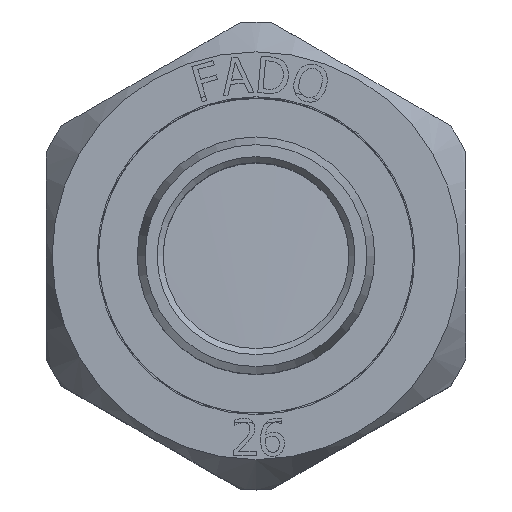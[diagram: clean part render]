
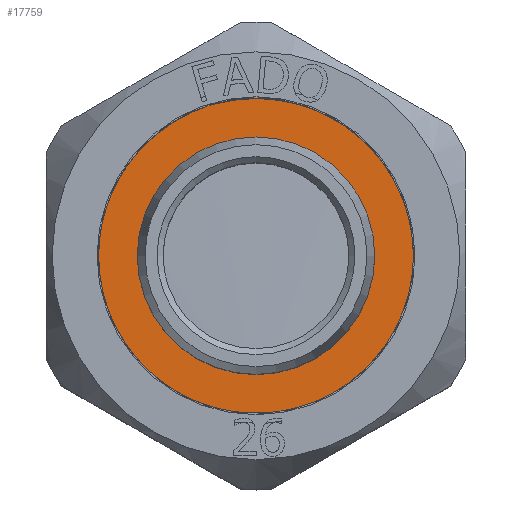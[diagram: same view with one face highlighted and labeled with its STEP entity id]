
A CAD part, top view. The second image highlights one B-rep face of the part: STEP entity #17759.
In plain terms, the highlighted planar face has unit normal (0, 0, 1) as drawn and (0, 0, -1) by its records, which use the part's own axes.
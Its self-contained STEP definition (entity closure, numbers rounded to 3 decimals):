
#1891=FACE_BOUND('',#4345,.T.);
#2156=PLANE('',#18819);
#3272=FACE_OUTER_BOUND('',#4344,.T.);
#4344=EDGE_LOOP('',(#16627,#16628));
#4345=EDGE_LOOP('',(#16629,#16630));
#6844=CIRCLE('',#18817,9.9);
#6845=CIRCLE('',#18818,9.9);
#6846=CIRCLE('',#18820,13.25);
#6847=CIRCLE('',#18821,13.25);
#8656=VERTEX_POINT('',#56282);
#8657=VERTEX_POINT('',#56283);
#8658=VERTEX_POINT('',#56288);
#8659=VERTEX_POINT('',#56289);
#11324=EDGE_CURVE('',#8656,#8657,#6844,.T.);
#11325=EDGE_CURVE('',#8657,#8656,#6845,.T.);
#11327=EDGE_CURVE('',#8658,#8659,#6846,.T.);
#11328=EDGE_CURVE('',#8659,#8658,#6847,.T.);
#16627=ORIENTED_EDGE('',*,*,#11327,.F.);
#16628=ORIENTED_EDGE('',*,*,#11328,.F.);
#16629=ORIENTED_EDGE('',*,*,#11324,.T.);
#16630=ORIENTED_EDGE('',*,*,#11325,.T.);
#17759=ADVANCED_FACE('',(#3272,#1891),#2156,.T.);
#18817=AXIS2_PLACEMENT_3D('',#56284,#21669,#21670);
#18818=AXIS2_PLACEMENT_3D('',#56285,#21671,#21672);
#18819=AXIS2_PLACEMENT_3D('',#56287,#21674,#21675);
#18820=AXIS2_PLACEMENT_3D('',#56290,#21676,#21677);
#18821=AXIS2_PLACEMENT_3D('',#56291,#21678,#21679);
#21669=DIRECTION('center_axis',(0.,0.,1.));
#21670=DIRECTION('ref_axis',(1.,0.,0.));
#21671=DIRECTION('center_axis',(0.,0.,1.));
#21672=DIRECTION('ref_axis',(1.,0.,0.));
#21674=DIRECTION('center_axis',(0.,0.,-1.));
#21675=DIRECTION('ref_axis',(-1.,0.,0.));
#21676=DIRECTION('center_axis',(0.,0.,1.));
#21677=DIRECTION('ref_axis',(1.,0.,0.));
#21678=DIRECTION('center_axis',(0.,0.,1.));
#21679=DIRECTION('ref_axis',(1.,0.,0.));
#56282=CARTESIAN_POINT('',(0.,-9.9,-10.087));
#56283=CARTESIAN_POINT('',(0.,9.9,-10.087));
#56284=CARTESIAN_POINT('Origin',(0.,0.,-10.087));
#56285=CARTESIAN_POINT('Origin',(0.,0.,-10.087));
#56287=CARTESIAN_POINT('Origin',(0.,-13.25,-10.087));
#56288=CARTESIAN_POINT('',(0.,-13.25,-10.087));
#56289=CARTESIAN_POINT('',(0.,13.25,-10.087));
#56290=CARTESIAN_POINT('Origin',(0.,0.,-10.087));
#56291=CARTESIAN_POINT('Origin',(0.,0.,-10.087));
